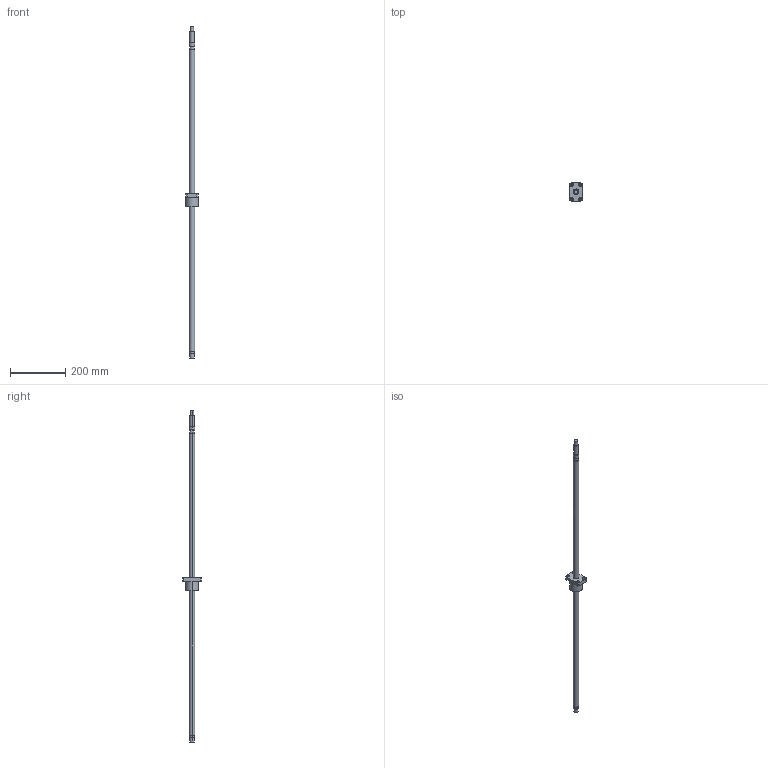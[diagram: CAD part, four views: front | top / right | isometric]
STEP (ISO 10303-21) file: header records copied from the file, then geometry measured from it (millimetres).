
FILE_DESCRIPTION((''),'2;1');
FILE_NAME('R20-10K3-FSC-1089-1199','2008-04-03T',('wcwu'),(''),'PRO/ENGINEER BY PARAMETRIC TECHNOLOGY CORPORATION, 2005070','PRO/ENGINEER BY PARAMETRIC TECHNOLOGY CORPORATION, 2005070','');
FILE_SCHEMA(('CONFIG_CONTROL_DESIGN'));
Length unit declared in the file: millimetre
Products named in the file (1): R20-10K3-FSC-1089-1199
Bounding box: 46 x 66 x 1199 mm (x, y, z)
Volume: 440975.1 mm3; surface area: 85822.9 mm2
Topology: 1 solids, 1 shells, 65 faces, 146 edges, 96 vertices
Faces by surface type: cylinder 40, plane 25
Entity records: 1906 total; most frequent: DIRECTION 360, CARTESIAN_POINT 307, ORIENTED_EDGE 292, AXIS2_PLACEMENT_3D 149, EDGE_CURVE 146, VERTEX_POINT 96, EDGE_LOOP 86, CIRCLE 84
